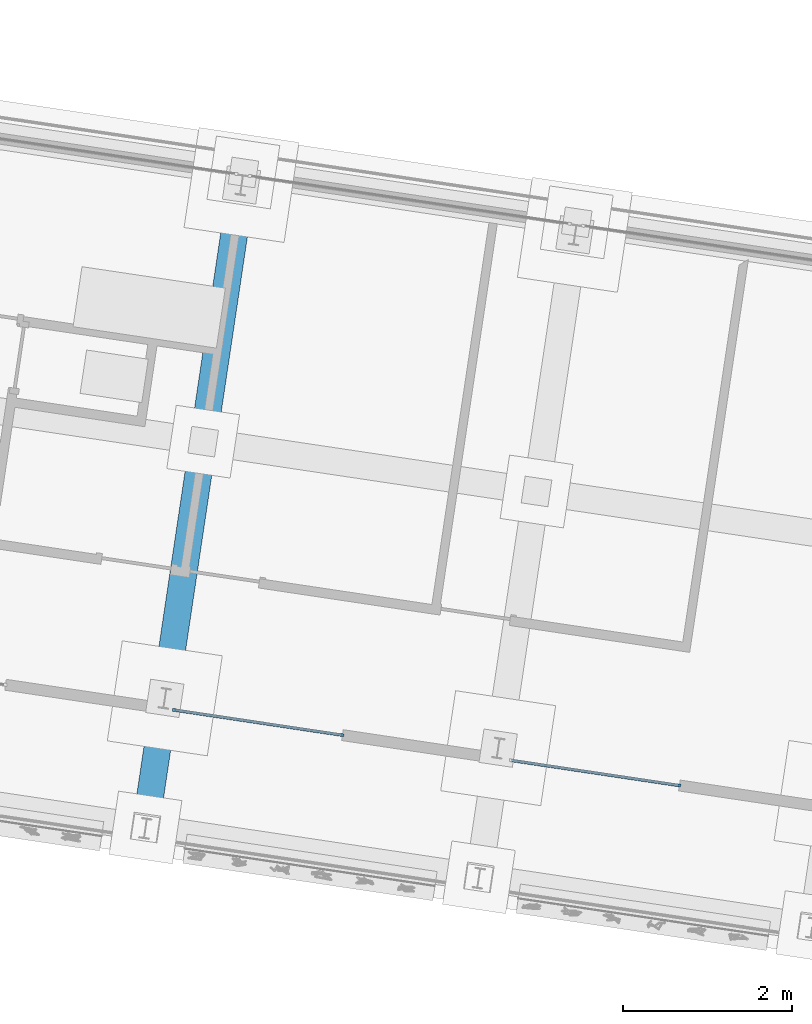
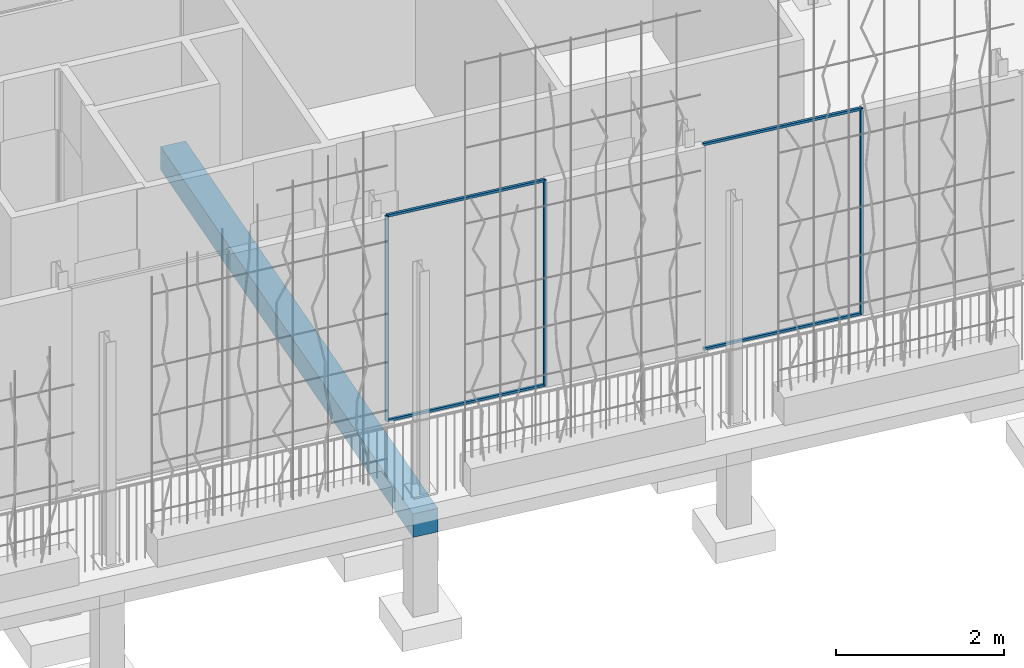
# One storey, part 81 of 142: 7 members, 1 beam, 1 element without a shape of its own.
"""IFC4 building model written with IfcOpenShell, lengths in metres."""

from ifc_helpers import new_model, si_unit, direction, frame, origin_with_axes, place, context, subcontext, project, spatial, polyline, rectangle, outline, extrude, material, material_profile, profile_set, profile_usage, type_object, element, aggregate, save


model = new_model("IFC4")

# Units and contexts
model_context = context("Model", 3, precision=1e-05, world=origin_with_axes(), true_north=direction((0.0, 1.0)))
body_context = subcontext(model_context, "Body", "Model", "MODEL_VIEW")
ifc_project = project(units=[si_unit("LENGTHUNIT", "METRE"), si_unit("AREAUNIT", "SQUARE_METRE"), si_unit("VOLUMEUNIT", "CUBIC_METRE")], contexts=[model_context])

# Site, building, storey
site_placement = place(None, origin_with_axes())
site = spatial("IfcSite", under=ifc_project, at=site_placement, Name="Lares · Rua das Mercês · artigo 4771")
building_placement = place(site_placement, frame((15.0, 9.7, 14.65), z_axis=(0.0, 0.0, 1.0), x_axis=(0.989015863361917, -0.147809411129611, 0.0)))
building = spatial("IfcBuilding", under=site, at=building_placement, Name="Casa Sobreposta")
storey_placement = place(building_placement, origin_with_axes())
storey = spatial("IfcBuildingStorey", under=building, at=storey_placement, Name="00 · Habitação e estacionamento", Elevation=14.65)

# Members
ifc_material_1 = material(Name="Aço pintado / Stahl lackiert", Category="steel")
ifc_material_profile = material_profile(ifc_material_1, rectangle(XDim=0.035, YDim=0.035))
ifc_profile_set = profile_set([ifc_material_profile], Name="R0.035")
ifc_profile_usage_1 = profile_usage(ifc_profile_set)
member_type = type_object("IfcMemberType", Name="R0.035 / steel", PredefinedType="NOTDEFINED", material=ifc_profile_set)
member_1_placement = place(storey_placement, frame((12.128, 0.0, 0.0), z_axis=(0.0, 0.0, 1.0), x_axis=(1.0, 0.0, 0.0)))
element("IfcMember", 1, at=member_1_placement, inside=storey, type_object=member_type, material=ifc_profile_usage_1, Name="Folha de correr sul 6 · montante", context=body_context, shape_type="SweptSolid", body=[
    extrude(rectangle(XDim=0.035, YDim=0.035), origin_with_axes(), (0.0, 0.0, 1.0), 2.968),
])
ifc_profile_usage_2 = profile_usage(ifc_profile_set)
member_2_placement = place(storey_placement, frame((14.1493333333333, 0.0, 0.0), z_axis=(0.0, 0.0, 1.0), x_axis=(1.0, 0.0, 0.0)))
element("IfcMember", 2, at=member_2_placement, inside=storey, type_object=member_type, material=ifc_profile_usage_2, Name="Folha de correr sul 6 · montante", context=body_context, shape_type="SweptSolid", body=[
    extrude(rectangle(XDim=0.035, YDim=0.035), origin_with_axes(), (0.0, 0.0, 1.0), 2.968),
])
ifc_profile_usage_3 = profile_usage(ifc_profile_set)
member_3_placement = place(storey_placement, frame((12.128, 0.0, 0.0), z_axis=(1.0, 0.0, 0.0), x_axis=(0.0, -1.0, 0.0)))
element("IfcMember", 3, at=member_3_placement, inside=storey, type_object=member_type, material=ifc_profile_usage_3, Name="Folha de correr sul 6 · travessa", context=body_context, shape_type="SweptSolid", body=[
    extrude(rectangle(XDim=0.035, YDim=0.035), origin_with_axes(), (0.0, 0.0, 1.0), 2.02133333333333),
])
ifc_profile_usage_4 = profile_usage(ifc_profile_set)
member_4_placement = place(storey_placement, frame((12.128, 0.0, 2.968), z_axis=(1.0, 0.0, 0.0), x_axis=(0.0, -1.0, 0.0)))
element("IfcMember", 4, at=member_4_placement, inside=storey, type_object=member_type, material=ifc_profile_usage_4, Name="Folha de correr sul 6 · travessa", context=body_context, shape_type="SweptSolid", body=[
    extrude(rectangle(XDim=0.035, YDim=0.035), origin_with_axes(), (0.0, 0.0, 1.0), 2.02133333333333),
])
ifc_profile_usage_5 = profile_usage(ifc_profile_set)
member_5_placement = place(storey_placement, frame((18.192, 0.0, 0.0), z_axis=(0.0, 0.0, 1.0), x_axis=(1.0, 0.0, 0.0)))
element("IfcMember", 5, at=member_5_placement, inside=storey, type_object=member_type, material=ifc_profile_usage_5, Name="Folha de correr sul 8 · montante", context=body_context, shape_type="SweptSolid", body=[
    extrude(rectangle(XDim=0.035, YDim=0.035), origin_with_axes(), (0.0, 0.0, 1.0), 2.968),
])
ifc_profile_usage_6 = profile_usage(ifc_profile_set)
member_6_placement = place(storey_placement, frame((16.1706666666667, 0.0, 0.0), z_axis=(1.0, 0.0, 0.0), x_axis=(0.0, -1.0, 0.0)))
element("IfcMember", 6, at=member_6_placement, inside=storey, type_object=member_type, material=ifc_profile_usage_6, Name="Folha de correr sul 8 · travessa", context=body_context, shape_type="SweptSolid", body=[
    extrude(rectangle(XDim=0.035, YDim=0.035), origin_with_axes(), (0.0, 0.0, 1.0), 2.02133333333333),
])
ifc_profile_usage_7 = profile_usage(ifc_profile_set)
member_7_placement = place(storey_placement, frame((16.1706666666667, 0.0, 2.968), z_axis=(1.0, 0.0, 0.0), x_axis=(0.0, -1.0, 0.0)))
element("IfcMember", 7, at=member_7_placement, inside=storey, type_object=member_type, material=ifc_profile_usage_7, Name="Folha de correr sul 8 · travessa", context=body_context, shape_type="SweptSolid", body=[
    extrude(rectangle(XDim=0.035, YDim=0.035), origin_with_axes(), (0.0, 0.0, 1.0), 2.02133333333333),
])

# Assembly, beam
assembly_placement = place(storey_placement, origin_with_axes())
assembly = element("IfcElementAssembly", 8, at=assembly_placement, inside=storey, Name="Pódio · terraço, casa térrea e cisterna", ObjectType="CISTERN_PODIUM", PredefinedType="USERDEFINED")
ifc_material_2 = material(Name="Betão armado / Stahlbeton", Category="concrete")
beam_placement = place(assembly_placement, frame((0.0, 0.0, -0.59), z_axis=(0.0, 0.0, 1.0), x_axis=(1.0, 0.0, 0.0)))
beam = element("IfcBeam", 9, at=beam_placement, material=ifc_material_2, Name="Pódio suspenso · viga transversal", context=body_context, shape_type="SweptSolid", body=[
    extrude(outline(polyline([(12.16, -1.59), (12.16, 6.59), (11.84, 6.59), (11.84, -1.59), (12.16, -1.59)])), origin_with_axes(), (0.0, 0.0, 1.0), 0.34),
])
aggregate(assembly, [beam])

save(model, "model.ifc")
